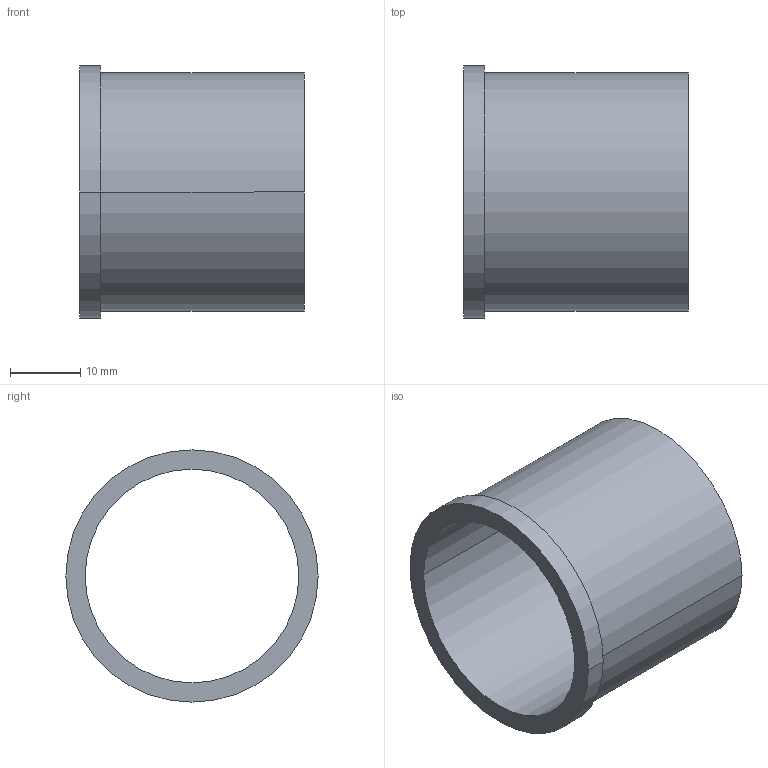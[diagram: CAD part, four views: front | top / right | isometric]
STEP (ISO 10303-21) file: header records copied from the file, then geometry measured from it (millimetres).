
FILE_DESCRIPTION(('Creo Elements/Direct Modeling STEP Export'),'2;1');
FILE_NAME('H05-0040-CL901_G36-30A.stp','2012-09-28T14:00:51',(''),(''),'Creo Elements/Direct Modeling STEP processor for AP214 (Solid Model)','Creo Elements/Direct Modeling 18.0B 02-Dec-2011 (C) Parametric Technology GmbH','');
FILE_SCHEMA(('AUTOMOTIVE_DESIGN { 1 0 10303 214 1 1 1 1 }'));
Length unit declared in the file: millimetre
Products named in the file (2): G36-30A
Assembly tree (1 placements, depth 2):
  G36-30A
    G36-30A
Bounding box: 32 x 36 x 36 mm (x, y, z)
Volume: 6003.6 mm3; surface area: 7077.6 mm2
Topology: 1 solids, 1 shells, 9 faces, 18 edges, 12 vertices
Faces by surface type: cylinder 6, plane 3
Entity records: 263 total; most frequent: DIRECTION 40, ORIENTED_EDGE 36, CARTESIAN_POINT 35, EDGE_CURVE 18, AXIS2_PLACEMENT_3D 17, VERTEX_POINT 12, EDGE_LOOP 12, FACE_OUTER_BOUND 9
